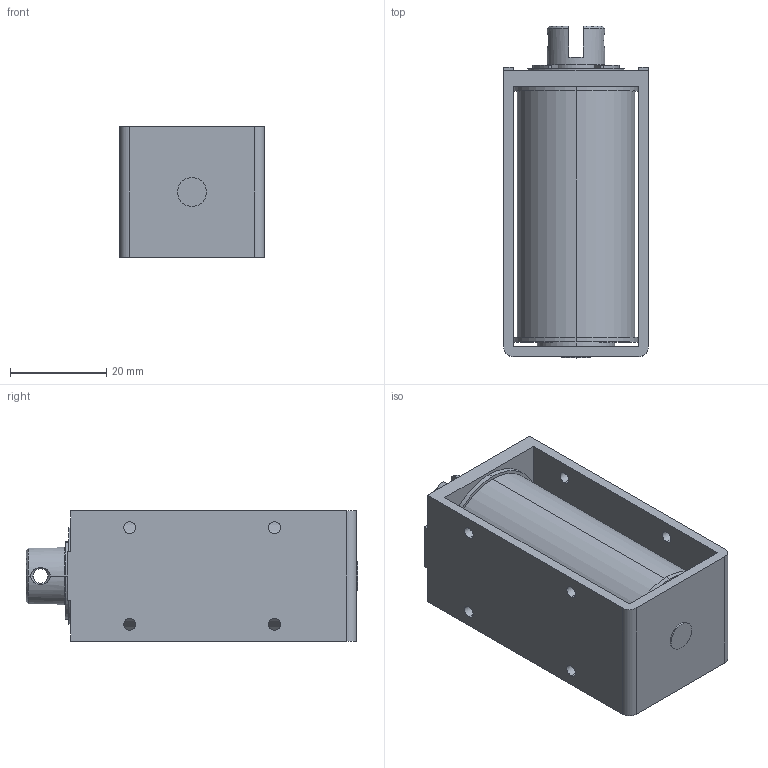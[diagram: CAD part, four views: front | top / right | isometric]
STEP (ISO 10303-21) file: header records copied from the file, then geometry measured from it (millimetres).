
FILE_DESCRIPTION (( 'STEP AP203' ), '1' );
FILE_NAME ('w_ce1260.STEP', '2014-07-24T05:06:12', ( 'jiba' ), ( 'Hewlett-Packard Company' ), 'SwSTEP 2.0', 'SolidWorks 2014', '' );
FILE_SCHEMA (( 'CONFIG_CONTROL_DESIGN' ));
Length unit declared in the file: millimetre
Products named in the file (3): w_ce1260; Part2^w_ce1260; Part1^w_ce1260_pl
Assembly tree (2 placements, depth 2):
  w_ce1260
    Part2^w_ce1260
    Part1^w_ce1260_pl
Bounding box: 30 x 68.8 x 27 mm (x, y, z)
Volume: 35754.7 mm3; surface area: 18242.4 mm2
Topology: 2 solids, 2 shells, 117 faces, 309 edges, 199 vertices
Faces by surface type: cylinder 63, plane 47, cone 7
Entity records: 4129 total; most frequent: CARTESIAN_POINT 746, DIRECTION 694, ORIENTED_EDGE 618, EDGE_CURVE 309, AXIS2_PLACEMENT_3D 271, VERTEX_POINT 199, VECTOR 152, LINE 152
